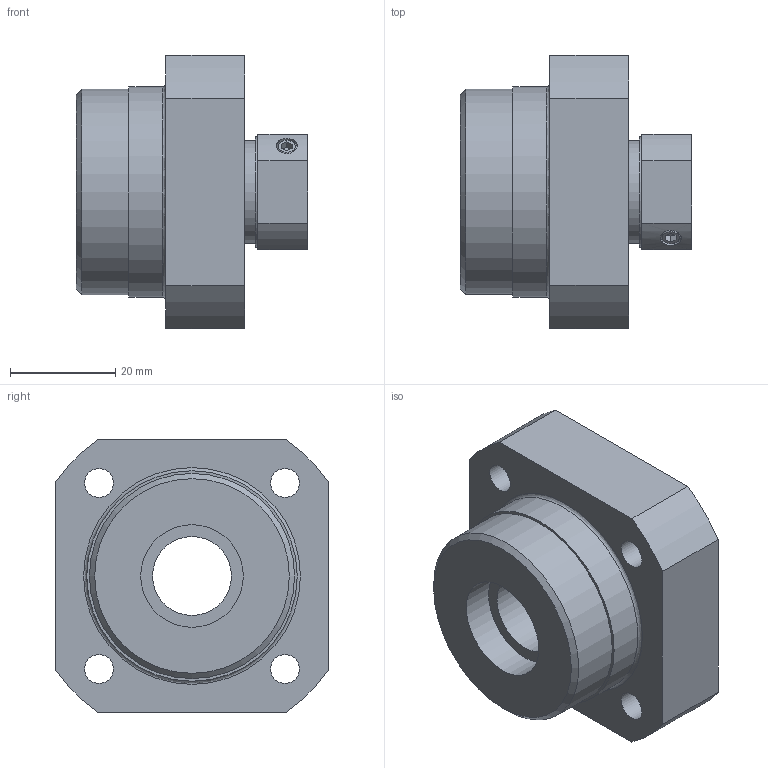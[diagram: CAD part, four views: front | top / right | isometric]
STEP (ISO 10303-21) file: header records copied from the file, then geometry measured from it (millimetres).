
FILE_DESCRIPTION((''),'2;1');
FILE_NAME('D:\製品 (図面)\カタログ用3D\ネジ関連\STEP形式\SUF\SUF15.stp','2010-06-02T14:49:00',('Tsuchiya'),(''),'Autodesk Inventor 10','Autodesk Inventor 10','');
FILE_SCHEMA(('AUTOMOTIVE_DESIGN { 1 0 10303 214 1 1 1 1 }'));
Length unit declared in the file: millimetre
Products named in the file (1): SUF15
Bounding box: 44 x 52 x 52 mm (x, y, z)
Volume: 52228.4 mm3; surface area: 15447.9 mm2
Topology: 1 solids, 1 shells, 104 faces, 225 edges, 148 vertices
Faces by surface type: plane 57, bspline 21, cylinder 20, torus 4, cone 2
Full cylindrical faces by diameter (mm): 4 x1, 7 x4, 15 x1, 19.5 x2, 21 x1, 27 x1, 39 x1, 40 x1
Entity records: 2971 total; most frequent: CARTESIAN_POINT 779, DIRECTION 430, ORIENTED_EDGE 388, EDGE_CURVE 194, EDGE_LOOP 170, AXIS2_PLACEMENT_3D 154, VERTEX_POINT 148, VECTOR 122
